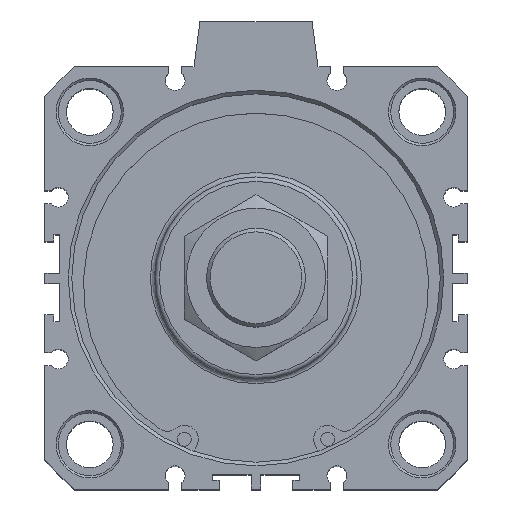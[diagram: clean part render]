
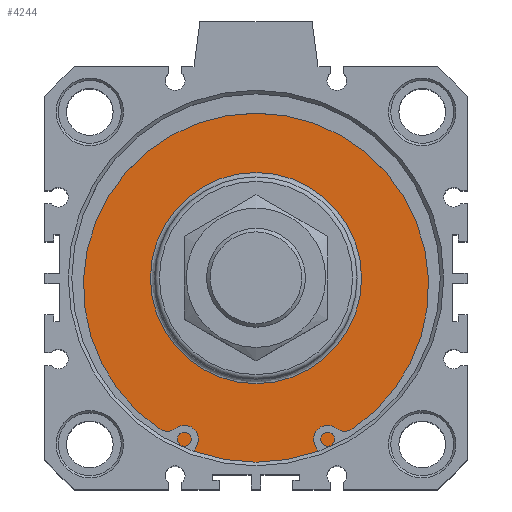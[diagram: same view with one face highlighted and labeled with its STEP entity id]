
A CAD part, top view. The second image highlights one B-rep face of the part: STEP entity #4244.
In plain terms, the highlighted planar face has unit normal (0, 0, 1).
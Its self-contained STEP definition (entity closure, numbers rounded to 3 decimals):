
#4193=CARTESIAN_POINT('',(2.632,21.227,95.6));
#4194=VERTEX_POINT('',#4193);
#4195=CARTESIAN_POINT('',(2.632,-2.273,95.6));
#4196=DIRECTION('',(0.0,0.0,1.0));
#4197=DIRECTION('',(0.0,-1.0,0.0));
#4198=AXIS2_PLACEMENT_3D('',#4195,#4196,#4197);
#4199=CIRCLE('',#4198,23.5);
#4200=EDGE_CURVE('',#4194,#4194,#4199,.T.);
#4225=CARTESIAN_POINT('',(2.632,29.477,95.6));
#4226=DIRECTION('',(0.0,0.0,1.0));
#4227=DIRECTION('',(1.0,0.0,0.0));
#4228=AXIS2_PLACEMENT_3D('',#4225,#4226,#4227);
#4229=PLANE('',#4228);
#4230=CARTESIAN_POINT('',(2.632,38.727,95.6));
#4231=VERTEX_POINT('',#4230);
#4232=CARTESIAN_POINT('',(2.632,-2.273,95.6));
#4233=DIRECTION('',(0.0,0.0,-1.0));
#4234=DIRECTION('',(0.0,1.0,0.0));
#4235=AXIS2_PLACEMENT_3D('',#4232,#4233,#4234);
#4236=CIRCLE('',#4235,41.);
#4237=EDGE_CURVE('',#4231,#4231,#4236,.T.);
#4238=ORIENTED_EDGE('',*,*,#4237,.F.);
#4239=EDGE_LOOP('',(#4238));
#4240=FACE_OUTER_BOUND('',#4239,.T.);
#4241=ORIENTED_EDGE('',*,*,#4200,.F.);
#4242=EDGE_LOOP('',(#4241));
#4243=FACE_BOUND('',#4242,.T.);
#4244=ADVANCED_FACE('',(#4240,#4243),#4229,.T.);
